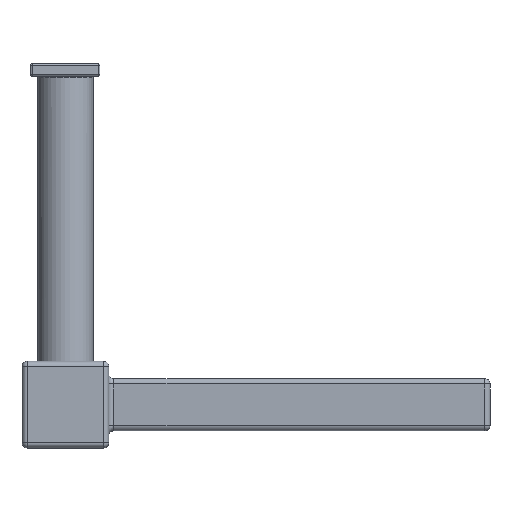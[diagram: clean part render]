
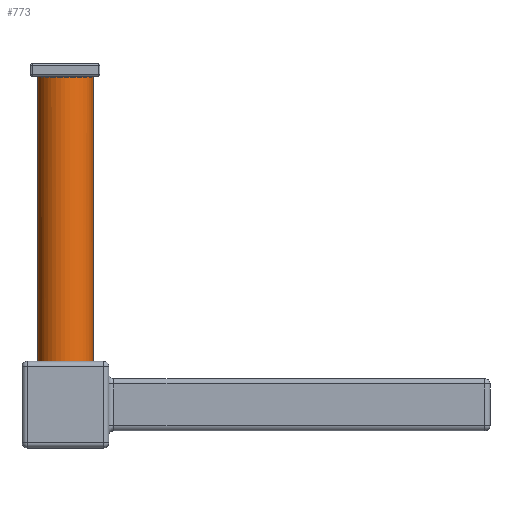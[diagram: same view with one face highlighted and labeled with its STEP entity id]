
A CAD part, left-side view. The second image highlights one B-rep face of the part: STEP entity #773.
In plain terms, the highlighted cylindrical face has radius 16 mm (diameter 32 mm), a partial arc.
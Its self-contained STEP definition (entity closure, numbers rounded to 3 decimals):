
#630=CARTESIAN_POINT('Vertex',(17.526,196.,15.808)) ;
#645=CARTESIAN_POINT('Vertex',(16.666,196.,15.649)) ;
#649=CARTESIAN_POINT('Control Point',(16.666,196.,15.649)) ;
#650=CARTESIAN_POINT('Control Point',(16.951,196.,15.71)) ;
#651=CARTESIAN_POINT('Control Point',(17.238,196.,15.762)) ;
#652=CARTESIAN_POINT('Control Point',(17.526,196.,15.808)) ;
#666=CARTESIAN_POINT('Axis2P3D Location',(20.,196.,0.)) ;
#670=CARTESIAN_POINT('Vertex',(20.,196.,16.)) ;
#702=CARTESIAN_POINT('Axis2P3D Location',(20.,197.,0.)) ;
#707=CARTESIAN_POINT('Line Origine',(20.,197.,16.)) ;
#711=CARTESIAN_POINT('Vertex',(20.,7.8,16.)) ;
#714=CARTESIAN_POINT('Axis2P3D Location',(20.,196.,0.)) ;
#718=CARTESIAN_POINT('Vertex',(14.,196.,14.832)) ;
#721=CARTESIAN_POINT('Axis2P3D Location',(20.,196.,0.)) ;
#725=CARTESIAN_POINT('Vertex',(14.,196.,-14.832)) ;
#728=CARTESIAN_POINT('Axis2P3D Location',(20.,196.,0.)) ;
#732=CARTESIAN_POINT('Vertex',(16.666,196.,-15.649)) ;
#735=CARTESIAN_POINT('Axis2P3D Location',(20.,196.,0.)) ;
#739=CARTESIAN_POINT('Vertex',(17.526,196.,-15.808)) ;
#742=CARTESIAN_POINT('Axis2P3D Location',(20.,196.,0.)) ;
#746=CARTESIAN_POINT('Vertex',(20.,196.,-16.)) ;
#749=CARTESIAN_POINT('Line Origine',(20.,197.,-16.)) ;
#753=CARTESIAN_POINT('Vertex',(20.,7.8,-16.)) ;
#756=CARTESIAN_POINT('Axis2P3D Location',(20.,7.8,0.)) ;
#667=DIRECTION('Axis2P3D Direction',(0.,1.,0.)) ;
#703=DIRECTION('Axis2P3D Direction',(0.,-1.,-0.)) ;
#704=DIRECTION('Axis2P3D XDirection',(0.,0.,-1.)) ;
#708=DIRECTION('Vector Direction',(0.,-1.,0.)) ;
#715=DIRECTION('Axis2P3D Direction',(0.,-1.,-0.)) ;
#722=DIRECTION('Axis2P3D Direction',(0.,-1.,-0.)) ;
#729=DIRECTION('Axis2P3D Direction',(0.,-1.,-0.)) ;
#736=DIRECTION('Axis2P3D Direction',(0.,-1.,-0.)) ;
#743=DIRECTION('Axis2P3D Direction',(0.,-1.,-0.)) ;
#750=DIRECTION('Vector Direction',(0.,-1.,0.)) ;
#757=DIRECTION('Axis2P3D Direction',(0.,-1.,-0.)) ;
#668=AXIS2_PLACEMENT_3D('Circle Axis2P3D',#666,#667,$) ;
#705=AXIS2_PLACEMENT_3D('Cylinder Axis2P3D',#702,#703,#704) ;
#716=AXIS2_PLACEMENT_3D('Circle Axis2P3D',#714,#715,$) ;
#723=AXIS2_PLACEMENT_3D('Circle Axis2P3D',#721,#722,$) ;
#730=AXIS2_PLACEMENT_3D('Circle Axis2P3D',#728,#729,$) ;
#737=AXIS2_PLACEMENT_3D('Circle Axis2P3D',#735,#736,$) ;
#744=AXIS2_PLACEMENT_3D('Circle Axis2P3D',#742,#743,$) ;
#758=AXIS2_PLACEMENT_3D('Circle Axis2P3D',#756,#757,$) ;
#762=ORIENTED_EDGE('',*,*,#713,.F.) ;
#763=ORIENTED_EDGE('',*,*,#672,.T.) ;
#764=ORIENTED_EDGE('',*,*,#653,.T.) ;
#765=ORIENTED_EDGE('',*,*,#720,.T.) ;
#766=ORIENTED_EDGE('',*,*,#727,.T.) ;
#767=ORIENTED_EDGE('',*,*,#734,.T.) ;
#768=ORIENTED_EDGE('',*,*,#741,.T.) ;
#769=ORIENTED_EDGE('',*,*,#748,.T.) ;
#770=ORIENTED_EDGE('',*,*,#755,.T.) ;
#771=ORIENTED_EDGE('',*,*,#760,.T.) ;
#709=VECTOR('Line Direction',#708,1.) ;
#751=VECTOR('Line Direction',#750,1.) ;
#773=ADVANCED_FACE('Fillet5',(#772),#706,.T.) ;
#669=CIRCLE('generated circle',#668,16.) ;
#717=CIRCLE('generated circle',#716,16.) ;
#724=CIRCLE('generated circle',#723,16.) ;
#731=CIRCLE('generated circle',#730,16.) ;
#738=CIRCLE('generated circle',#737,16.) ;
#745=CIRCLE('generated circle',#744,16.) ;
#759=CIRCLE('generated circle',#758,16.) ;
#706=CYLINDRICAL_SURFACE('generated cylinder',#705,16.) ;
#653=EDGE_CURVE('',#631,#646,#648,.F.) ;
#672=EDGE_CURVE('',#671,#631,#669,.F.) ;
#713=EDGE_CURVE('',#671,#712,#710,.T.) ;
#720=EDGE_CURVE('',#646,#719,#717,.T.) ;
#727=EDGE_CURVE('',#719,#726,#724,.T.) ;
#734=EDGE_CURVE('',#726,#733,#731,.T.) ;
#741=EDGE_CURVE('',#733,#740,#738,.T.) ;
#748=EDGE_CURVE('',#740,#747,#745,.T.) ;
#755=EDGE_CURVE('',#747,#754,#752,.T.) ;
#760=EDGE_CURVE('',#754,#712,#759,.F.) ;
#761=EDGE_LOOP('',(#762,#763,#764,#765,#766,#767,#768,#769,#770,#771)) ;
#772=FACE_OUTER_BOUND('',#761,.T.) ;
#710=LINE('Line',#707,#709) ;
#752=LINE('Line',#749,#751) ;
#631=VERTEX_POINT('',#630) ;
#646=VERTEX_POINT('',#645) ;
#671=VERTEX_POINT('',#670) ;
#712=VERTEX_POINT('',#711) ;
#719=VERTEX_POINT('',#718) ;
#726=VERTEX_POINT('',#725) ;
#733=VERTEX_POINT('',#732) ;
#740=VERTEX_POINT('',#739) ;
#747=VERTEX_POINT('',#746) ;
#754=VERTEX_POINT('',#753) ;
#648=(BOUNDED_CURVE()B_SPLINE_CURVE(3,(#649,#650,#651,#652),.UNSPECIFIED.,.F.,.U.)B_SPLINE_CURVE_WITH_KNOTS((4,4),(0.004,0.87),.UNSPECIFIED.)CURVE()GEOMETRIC_REPRESENTATION_ITEM()RATIONAL_B_SPLINE_CURVE((1.,1.,1.,1.))REPRESENTATION_ITEM('')) ;
